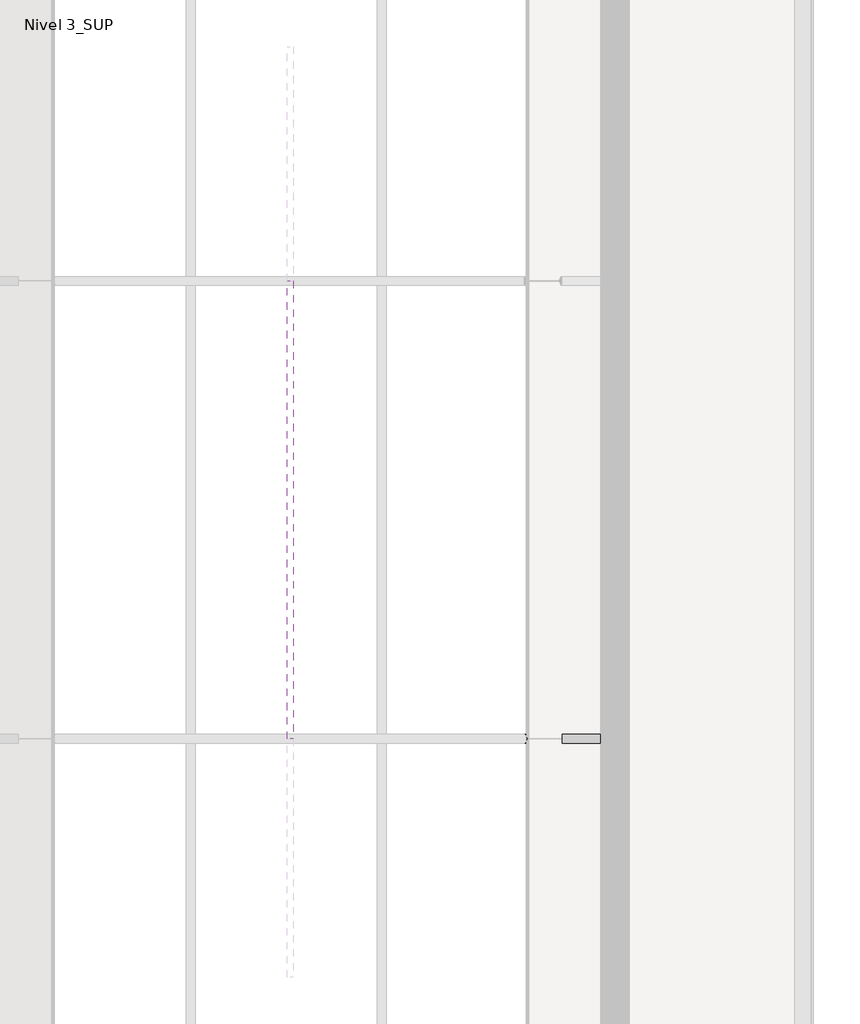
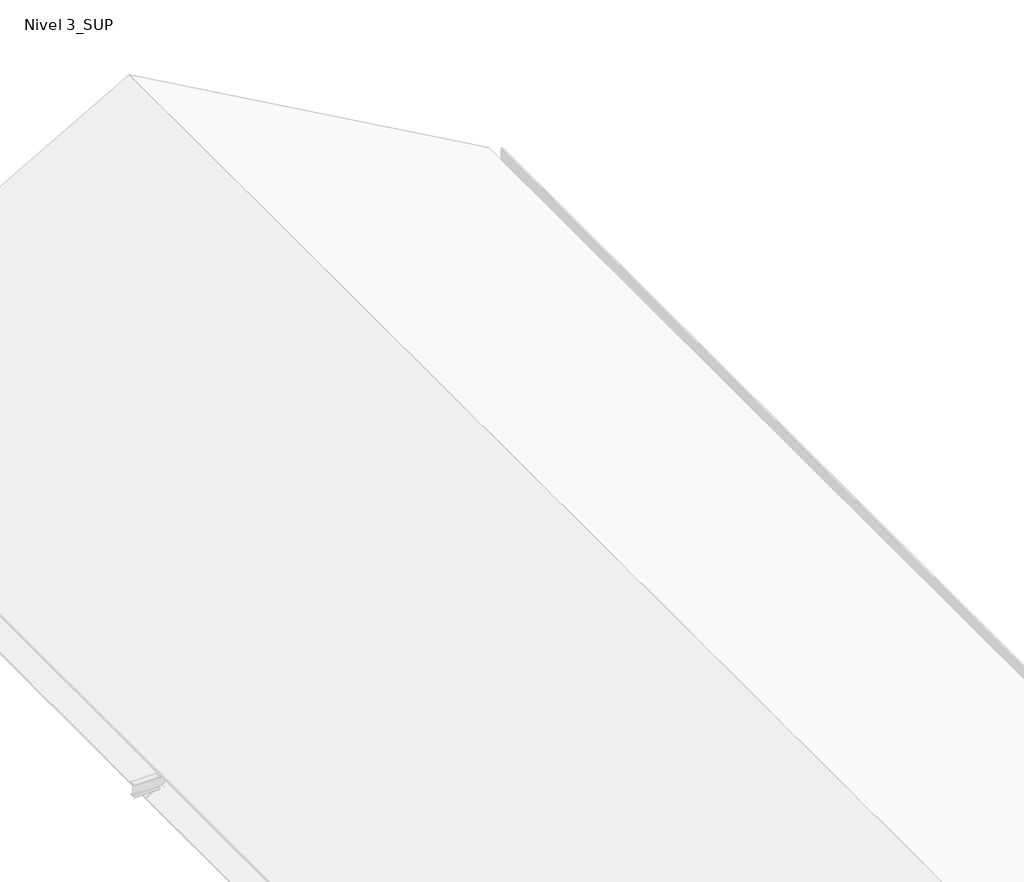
# One storey, part 7 of 10: 3 beams.
"""IFC4 building model written with IfcOpenShell, lengths in millimetres."""

from ifc_helpers import new_model, si_unit, point, frame, frame_2d, origin, place, context, project, spatial, polyline, circle_curve, ellipse_curve, trimmed, segment, composite_curve, outline, extrude, transform, mapped, element, save
from ifc_brep_helpers import plane_surface, cylinder_surface, revolved_surface, advanced_brep
from components import madera_50x50mm_248aafd5

model = new_model("IFC4")

# Units and contexts
model_context = context("Model", 3, world=origin())
ifc_project = project(units=[si_unit("LENGTHUNIT", "METRE", prefix="MILLI")], contexts=[model_context])

# Site, building, storey
site = spatial("IfcSite", under=ifc_project)
building = spatial("IfcBuilding", under=site)
storey = spatial("IfcBuildingStorey", under=building, Name="Nivel 3_SUP", Elevation=13230.0)

# Beams
placement = place(None, origin())
element("IfcBeam", 1, ObjectType="IPN - Secciones en I con alas cónicas : IPN 160", at=placement, inside=storey, context=model_context, shape_type="AdvancedBrep", body=[
    advanced_brep(
    [(10490.2150333, 5907.6072273, 15559.964301), (10491.9881247, 5907.6072273, 15563.1030499), (10493.8391044, 5910.8803655, 15566.3796778), (10495.5709331, 5936.0307088, 15569.4453831), (10498.6396626, 5941.4572273, 15574.8776873), (10490.2150333, 5941.4572273, 15559.964301), (10569.87885, 5907.6072273, 15514.9619045), (10569.87885, 5907.6072273, 15519.1022796), (10566.1155514, 5910.8803655, 15525.5504349), (10562.5945033, 5936.0307088, 15531.5835105), (10556.3553503, 5941.4572273, 15542.2738734), (10566.1155514, 5910.8803655, 15517.0878064), (10562.5945033, 5936.0307088, 15519.07686), (10556.3553503, 5941.4572273, 15522.6013815)],
    [
        (0, 1),
        (1, 2, circle_curve(frame((10491.9881247, 5911.4072273, 15563.1030499), z_axis=(-0.8706797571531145, 0.0, 0.49185034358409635), x_axis=(0.0, 1.0, 0.0)), 3.8)),
        (2, 3),
        (3, 4, circle_curve(frame((10498.6396626, 5935.1572273, 15574.8776873), z_axis=(0.8706797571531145, 0.0, -0.49185034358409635), x_axis=(0.0, 1.0, 0.0)), 6.3)),
        (4, 5),
        (5, 0),
        (0, 6),
        (6, 7),
        (7, 1),
        (2, 8),
        (8, 9),
        (9, 3),
        (9, 10, ellipse_curve(frame((10556.3553503, 5935.1572273, 15542.2738734), z_axis=(0.8636695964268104, 0.0, 0.5040583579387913), x_axis=(0.5040583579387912, 0.0, -0.8636695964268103)), 12.4985528, 6.3)),
        (10, 4),
        (8, 11),
        (11, 12),
        (12, 9),
        (12, 13, ellipse_curve(frame((10556.3553503, 5935.1572273, 15522.6013815), z_axis=(0.49185034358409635, 0.0, 0.8706797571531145), x_axis=(-0.8706797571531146, 0.0, 0.49185034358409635)), 7.2357258, 6.3)),
        (13, 10),
        (13, 5),
        (11, 6, ellipse_curve(frame((10569.87885, 5911.4072273, 15514.9619045), z_axis=(0.49185034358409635, 0.0, 0.8706797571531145), x_axis=(0.8706797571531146, 0.0, -0.49185034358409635)), 4.3644061, 3.8)),
        (7, 8, ellipse_curve(frame((10569.87885, 5911.4072273, 15519.1022796), z_axis=(-0.8636695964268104, 0.0, -0.5040583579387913), x_axis=(-0.5040583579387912, 0.0, 0.8636695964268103)), 7.5388096, 3.8)),
    ],
    [
        plane_surface(frame((10529.5630608, 5944.6072273, 15629.6186816), z_axis=(-0.8706797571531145, 0.0, 0.4918503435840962), x_axis=(0.4918503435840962, 0.0, 0.8706797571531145))),
        plane_surface(frame((10490.2150333, 5907.6072273, 15559.964301), z_axis=(0.0, -1.0, 0.0), x_axis=(0.8706797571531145, 0.0, -0.49185034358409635))),
        plane_surface(frame((10494.8876116, 5926.1072273, 15568.2357587), z_axis=(0.48709992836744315, -0.13864784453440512, 0.8622705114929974), x_axis=(0.8706797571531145, 0.0, -0.49185034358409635))),
        revolved_surface(polyline([(10565.754007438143, 5941.4572273, 15536.964535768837), (10498.6396626, 5941.4572273, 15574.8776873)]), (10498.6396626, 5935.1572273, 15574.8776873), (0.8706797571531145, 0.0, -0.49185034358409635)),
        plane_surface(frame((10566.1155514, 5910.8803655, 13390.0), z_axis=(0.9903417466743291, 0.13864784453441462, 0.0), x_axis=(0.0, 0.0, 1.0))),
        cylinder_surface(frame((10556.3553503, 5935.1572273, 14544.0), z_axis=(0.0, 0.0, 1.0), x_axis=(0.0, -1.0, 0.0)), 6.3),
        plane_surface(frame((10556.3553503, 5941.4572273, 13390.0), z_axis=(0.0, 1.0, 0.0), x_axis=(0.0, 0.0, 1.0))),
        plane_surface(frame((10490.2150333, 5981.6072273, 15559.964301), z_axis=(-0.49185034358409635, 0.0, -0.8706797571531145), x_axis=(0.8706797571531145, 0.0, -0.49185034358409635))),
        cylinder_surface(frame((10491.9881247, 5911.4072273, 15563.1030499), z_axis=(-0.8706797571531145, 0.0, 0.49185034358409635), x_axis=(0.0, 1.0, 0.0)), 3.8),
        revolved_surface(polyline([(10569.87885, 5907.6072273, 15512.591238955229), (10569.87885, 5907.6072273, 15525.61332024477)]), (10569.87885, 5911.4072273, 14544.0), (0.0, 0.0, -1.0)),
    ],
    [
        (0, [[1, 2, 3, 4, 5, 6]]),
        (1, [[-1, 7, 8, 9]]),
        (2, [[-3, 10, 11, 12]]),
        (3, [[-4, -12, 13, 14]]),
        (4, [[15, 16, 17, -11]]),
        (5, [[-17, 18, 19, -13]]),
        (6, [[-19, 20, -5, -14]]),
        (7, [[-6, -20, -18, -16, 21, -7]]),
        (8, [[-2, -9, 22, -10]]),
        (9, [[-15, -22, -8, -21]]),
    ],
),
    advanced_brep(
    [(14596.3407681, 5981.6072273, 13240.3980806), (14598.1138594, 5981.6072273, 13243.5368296), (14599.9648391, 5978.3340891, 13246.8134575), (14601.6966678, 5953.1837459, 13249.8791628), (14604.7653974, 5947.7572273, 13255.311467), (14600.1427742, 5947.7572273, 13247.1284404), (14596.6182526, 5953.1837459, 13240.8892874), (14596.3407681, 5956.6923656, 13240.3980806), (14345.2243974, 5981.6072273, 13386.3950593), (14359.537545, 5978.3340891, 13382.6317607), (14372.9293285, 5953.1837459, 13379.1107126), (14396.6590206, 5947.7572273, 13372.8715596), (14337.8950527, 5981.6072273, 13386.3950593), (14595.4712276, 5953.1837459, 13240.8892874), (14584.4265993, 5947.7572273, 13247.1284404), (14361.8345245, 5947.7572273, 13372.8715596), (14350.7898962, 5953.1837459, 13379.1107126), (14344.556892, 5978.3340891, 13382.6317607)],
    [
        (0, 1),
        (1, 2, circle_curve(frame((14598.1138594, 5977.8072273, 13243.5368296), z_axis=(0.8706797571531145, 0.0, -0.49185034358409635), x_axis=(0.0, 1.0, 0.0)), 3.8)),
        (2, 3),
        (3, 4, circle_curve(frame((14604.7653974, 5954.0572273, 13255.311467), z_axis=(-0.8706797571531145, 0.0, 0.49185034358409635), x_axis=(0.0, 1.0, 0.0)), 6.3)),
        (4, 5),
        (5, 6, ellipse_curve(frame((14600.1427742, 5954.0572273, 13247.1284404), z_axis=(0.8706797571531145, 0.0, -0.4918503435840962), x_axis=(0.4918503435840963, 0.0, 0.8706797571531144)), 7.2357258, 6.3)),
        (6, 7),
        (7, 0),
        (1, 8),
        (8, 9, ellipse_curve(frame((14345.2243974, 5977.8072273, 13386.3950593), z_axis=(-0.25428354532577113, 0.0, -0.9671297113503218), x_axis=(-0.9671297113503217, 0.0, 0.2542835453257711)), 14.9439477, 3.8)),
        (9, 2),
        (3, 10),
        (10, 11, ellipse_curve(frame((14396.6590206, 5954.0572273, 13372.8715596), z_axis=(0.25428354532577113, 0.0, 0.9671297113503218), x_axis=(0.9671297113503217, 0.0, -0.2542835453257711)), 24.7754922, 6.3)),
        (11, 4),
        (9, 10),
        (0, 12),
        (12, 8),
        (7, 13),
        (13, 14, ellipse_curve(frame((14584.4265993, 5954.0572273, 13247.1284404), z_axis=(-0.49185034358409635, 0.0, -0.8706797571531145), x_axis=(0.8706797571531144, 0.0, -0.4918503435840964)), 12.8087742, 6.3)),
        (14, 15),
        (15, 16, ellipse_curve(frame((14361.8345245, 5954.0572273, 13372.8715596), z_axis=(-0.49185034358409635, 0.0, -0.8706797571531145), x_axis=(0.8706797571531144, 0.0, -0.4918503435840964)), 12.8087742, 6.3)),
        (16, 17),
        (17, 12, ellipse_curve(frame((14337.8950527, 5977.8072273, 13386.3950593), z_axis=(0.49185034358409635, 0.0, 0.8706797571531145), x_axis=(-0.8706797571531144, 0.0, 0.4918503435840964)), 7.7259273, 3.8)),
        (9, 17),
        (16, 10),
        (15, 11),
        (14, 5),
        (13, 6),
    ],
    [
        plane_surface(frame((14635.6887956, 5944.6072273, 13310.0524612), z_axis=(0.8706797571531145, 0.0, -0.4918503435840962), x_axis=(0.4918503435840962, 0.0, 0.8706797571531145))),
        cylinder_surface(frame((10491.9881247, 5977.8072273, 15563.1030499), z_axis=(-0.8706797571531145, 0.0, 0.49185034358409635), x_axis=(0.0, 1.0, 0.0)), 3.8),
        revolved_surface(polyline([(14604.765397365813, 5960.3572273, 13255.311466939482), (14375.796563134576, 5960.3572273, 13384.656842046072)]), (10498.6396626, 5954.0572273, 15574.8776873), (0.8706797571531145, 0.0, -0.49185034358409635)),
        plane_surface(frame((10494.8876116, 5963.1072273, 15568.2357587), z_axis=(0.48709992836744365, 0.13864784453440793, 0.8622705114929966), x_axis=(0.8706797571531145, 0.0, -0.49185034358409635))),
        plane_surface(frame((10491.9881247, 5981.6072273, 15563.1030499), z_axis=(0.0, 1.0, 0.0), x_axis=(0.8706797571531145, 0.0, -0.49185034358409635))),
        plane_surface(frame((10490.2150333, 5981.6072273, 15559.964301), z_axis=(-0.49185034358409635, 0.0, -0.8706797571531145), x_axis=(0.8706797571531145, 0.0, -0.49185034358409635))),
        plane_surface(frame((6033.4837907, 5978.3340891, 13382.6317607), z_axis=(0.0, -0.13864784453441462, 0.9903417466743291), x_axis=(1.0, 0.0, 0.0))),
        cylinder_surface(frame((10483.0206567, 5954.0572273, 13372.8715596), z_axis=(1.0, 0.0, 0.0), x_axis=(0.0, 1.0, 0.0)), 6.3),
        plane_surface(frame((6033.4837907, 5947.7572273, 13372.8715596), z_axis=(0.0, -1.0, 0.0), x_axis=(1.0, 0.0, 0.0))),
        cylinder_surface(frame((10483.0206567, 5954.0572273, 13247.1284404), z_axis=(1.0, 0.0, 0.0), x_axis=(0.0, 1.0, 0.0)), 6.3),
        plane_surface(frame((6033.4837907, 5953.1837459, 13240.8892874), z_axis=(0.0, -0.13864784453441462, -0.9903417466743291), x_axis=(1.0, 0.0, 0.0))),
        revolved_surface(polyline([(14330.771661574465, 5981.6072273, 13386.3950593), (14359.677133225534, 5981.6072273, 13386.3950593)]), (10483.0206567, 5977.8072273, 13386.3950593), (-1.0, 0.0, 0.0)),
    ],
    [
        (0, [[1, 2, 3, 4, 5, 6, 7, 8]]),
        (1, [[-2, 9, 10, 11]]),
        (2, [[-4, 12, 13, 14]]),
        (3, [[-3, -11, 15, -12]]),
        (4, [[-1, 16, 17, -9]]),
        (5, [[-8, 18, 19, 20, 21, 22, 23, -16]]),
        (6, [[24, -22, 25, -15]]),
        (7, [[-25, -21, 26, -13]]),
        (8, [[-26, -20, 27, -5, -14]]),
        (9, [[-27, -19, 28, -6]]),
        (10, [[-28, -18, -7]]),
        (11, [[-24, -10, -17, -23]]),
    ],
),
    advanced_brep(
    [(10567.137997, 5981.6072273, 15696.1343132), (10568.9110883, 5981.6072273, 15699.2730621), (10571.1646792, 5981.6072273, 15698.0), (10569.87885, 5981.6072273, 15698.0), (10569.87885, 5981.6072273, 15694.5859948), (10564.485059, 5966.6877151, 15691.4380486), (10565.2870173, 5978.3340891, 15692.8576853), (10566.1155514, 5978.3340891, 15692.3896432), (10565.2870173, 5910.8803655, 15692.8576853), (10564.485059, 5922.5267396, 15691.4380486), (10566.1155514, 5910.8803655, 15692.3896432), (10568.9110883, 5907.6072273, 15699.2730621), (10567.137997, 5907.6072273, 15696.1343132), (10569.87885, 5907.6072273, 15694.5859948), (10569.87885, 5907.6072273, 15698.0), (10571.1646792, 5907.6072273, 15698.0), (10568.1919306, 5908.0021865, 15698.0), (10568.1919306, 5981.2122681, 15698.0), (10566.1155514, 5910.8803655, 15694.324367), (10566.1155514, 5978.3340891, 15694.324367)],
    [
        (0, 1),
        (1, 2),
        (2, 3),
        (3, 4),
        (4, 0),
        (5, 6),
        (6, 7),
        (7, 5),
        (8, 9),
        (9, 10),
        (10, 8),
        (11, 12),
        (12, 13),
        (13, 14),
        (14, 15),
        (15, 11),
        (1, 11),
        (15, 2),
        (14, 16, circle_curve(frame((10569.87885, 5911.4072273, 15698.0), z_axis=(0.0, 0.0, -1.0), x_axis=(0.0, -1.0, 0.0)), 3.8)),
        (16, 17),
        (17, 3, circle_curve(frame((10569.87885, 5977.8072273, 15698.0), z_axis=(0.0, 0.0, -1.0), x_axis=(0.0, -1.0, 0.0)), 3.8)),
        (13, 10, ellipse_curve(frame((10569.87885, 5911.4072273, 15694.5859948), z_axis=(0.5040583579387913, 0.0, -0.8636695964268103), x_axis=(-0.8636695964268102, 0.0, -0.5040583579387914)), 4.3998307, 3.8)),
        (10, 18),
        (18, 16, ellipse_curve(frame((10569.87885, 5911.4072273, 15700.9862063), z_axis=(-0.8706797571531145, 0.0, 0.4918503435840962), x_axis=(-0.49185034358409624, 0.0, -0.8706797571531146)), 7.7259273, 3.8)),
        (0, 6, circle_curve(frame((10567.137997, 5977.8072273, 15696.1343132), z_axis=(-0.8706797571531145, 0.0, 0.49185034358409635), x_axis=(0.0, 1.0, 0.0)), 3.8)),
        (5, 19),
        (19, 17, ellipse_curve(frame((10569.87885, 5977.8072273, 15700.9862063), z_axis=(0.8706797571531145, 0.0, -0.4918503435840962), x_axis=(-0.49185034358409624, 0.0, -0.8706797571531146)), 7.7259273, 3.8)),
        (18, 9),
        (8, 12, circle_curve(frame((10567.137997, 5911.4072273, 15696.1343132), z_axis=(-0.8706797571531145, 0.0, 0.49185034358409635), x_axis=(0.0, 1.0, 0.0)), 3.8)),
        (4, 7, ellipse_curve(frame((10569.87885, 5977.8072273, 15694.5859948), z_axis=(-0.5040583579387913, 0.0, 0.8636695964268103), x_axis=(-0.8636695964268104, 0.0, -0.5040583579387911)), 4.3998307, 3.8)),
        (7, 19),
    ],
    [
        plane_surface(frame((10568.9110883, 5981.6072273, 15699.2730621), z_axis=(0.0, 1.0, 0.0), x_axis=(0.8706797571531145, 0.0, -0.49185034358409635))),
        plane_surface(frame((10564.23851, 5963.1072273, 15691.0016044), z_axis=(-0.4870999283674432, 0.13864784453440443, -0.8622705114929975), x_axis=(0.8706797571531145, 0.0, -0.49185034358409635))),
        plane_surface(frame((10564.23851, 5926.1072273, 15691.0016044), z_axis=(-0.48709992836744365, -0.13864784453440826, -0.8622705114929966), x_axis=(0.8706797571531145, 0.0, -0.49185034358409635))),
        plane_surface(frame((10567.137997, 5907.6072273, 15696.1343132), z_axis=(0.0, -1.0, 0.0), x_axis=(0.8706797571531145, 0.0, -0.49185034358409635))),
        plane_surface(frame((10568.9110883, 5907.6072273, 15699.2730621), z_axis=(0.49185034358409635, 0.0, 0.8706797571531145), x_axis=(0.8706797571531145, 0.0, -0.49185034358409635))),
        plane_surface(frame((10493.4837907, 5944.6072273, 15698.0), z_axis=(0.0, 0.0, -1.0), x_axis=(0.0, -1.0, 0.0))),
        revolved_surface(polyline([(10569.87885, 5907.6072273, 15692.36822336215), (10569.87885, 5907.6072273, 15707.713014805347)]), (10569.87885, 5911.4072273, 14544.0), (0.0, 0.0, -1.0)),
        plane_surface(frame((10529.5630608, 5944.6072273, 15629.6186816), z_axis=(-0.8706797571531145, 0.0, 0.4918503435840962), x_axis=(0.4918503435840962, 0.0, 0.8706797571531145))),
        cylinder_surface(frame((10567.137997, 5977.8072273, 15696.1343132), z_axis=(-0.8706797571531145, 0.0, 0.49185034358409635), x_axis=(0.0, 1.0, 0.0)), 3.8),
        cylinder_surface(frame((10567.137997, 5911.4072273, 15696.1343132), z_axis=(-0.8706797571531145, 0.0, 0.49185034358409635), x_axis=(0.0, 1.0, 0.0)), 3.8),
        plane_surface(frame((10566.1155514, 5910.8803655, 13390.0), z_axis=(0.9903417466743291, 0.13864784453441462, 0.0), x_axis=(0.0, 0.0, 1.0))),
        plane_surface(frame((10562.5945033, 5953.1837459, 13390.0), z_axis=(0.9903417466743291, -0.13864784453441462, 0.0), x_axis=(0.0, 0.0, 1.0))),
        revolved_surface(polyline([(10569.87885, 5974.0072273, 15692.36822336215), (10569.87885, 5974.0072273, 15707.713014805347)]), (10569.87885, 5977.8072273, 14544.0), (0.0, 0.0, -1.0)),
    ],
    [
        (0, [[1, 2, 3, 4, 5]]),
        (1, [[6, 7, 8]]),
        (2, [[9, 10, 11]]),
        (3, [[12, 13, 14, 15, 16]]),
        (4, [[17, -16, 18, -2]]),
        (5, [[19, 20, 21, -3, -18, -15]]),
        (6, [[-19, -14, 22, 23, 24]]),
        (7, [[-1, 25, -6, 26, 27, -20, -24, 28, -9, 29, -12, -17]]),
        (8, [[-25, -5, 30, -7]]),
        (9, [[-29, -11, -22, -13]]),
        (10, [[-23, -10, -28]]),
        (11, [[31, -26, -8]]),
        (12, [[-21, -27, -31, -30, -4]]),
    ],
),
    advanced_brep(
    [(14649.4863983, 5981.6072273, 13390.0), (14641.8350899, 5978.3340891, 13390.0), (10573.4837907, 5978.3340891, 15688.2272964), (10573.4837907, 5981.6072273, 15692.5495499), (14634.6763106, 5953.1837459, 13390.0), (14621.9912468, 5947.7572273, 13390.0), (10573.4837907, 5947.7572273, 15677.0174331), (10573.4837907, 5953.1837459, 15684.1832745), (14366.3380368, 5947.7572273, 13390.0), (10573.4837907, 5947.7572273, 15532.5979515), (14346.4941937, 5978.3340891, 13390.0), (14338.8428853, 5981.6072273, 13390.0), (10573.4837907, 5981.6072273, 15517.0658347), (10573.4837907, 5978.3340891, 15521.3880882), (14338.8428853, 5907.6072273, 13390.0), (14346.4941937, 5910.8803655, 13390.0), (10573.4837907, 5910.8803655, 15521.3880882), (10573.4837907, 5907.6072273, 15517.0658347), (14366.3380368, 5941.4572273, 13390.0), (14621.9912468, 5941.4572273, 13390.0), (10573.4837907, 5941.4572273, 15677.0174331), (10573.4837907, 5941.4572273, 15532.5979515), (14634.6763106, 5936.0307088, 13390.0), (10573.4837907, 5936.0307088, 15684.1832745), (14641.8350899, 5910.8803655, 13390.0), (14649.4863983, 5907.6072273, 13390.0), (10573.4837907, 5907.6072273, 15692.5495499), (10573.4837907, 5910.8803655, 15688.2272964), (14656.815743, 5981.6072273, 13390.0), (14656.815743, 5907.6072273, 13390.0), (14353.6529729, 5936.0307088, 13390.0), (14331.5135406, 5907.6072273, 13390.0), (14331.5135406, 5981.6072273, 13390.0), (14353.6529729, 5953.1837459, 13390.0), (10573.4837907, 5981.6072273, 15696.6899249), (10573.4837907, 5953.1837459, 15525.4321101), (10573.4837907, 5981.6072273, 15512.9254597), (10573.4837907, 5907.6072273, 15512.9254597), (10573.4837907, 5936.0307088, 15525.4321101), (10573.4837907, 5907.6072273, 15696.6899249)],
    [
        (0, 1, ellipse_curve(frame((14649.4863983, 5977.8072273, 13390.0), z_axis=(0.0, 0.0, 1.0), x_axis=(-1.0, 0.0, 0.0)), 7.7259273, 3.8)),
        (1, 2),
        (2, 3, ellipse_curve(frame((10573.4837907, 5977.8072273, 15692.5495499), z_axis=(1.0, 0.0, 0.0), x_axis=(0.0, 0.0, 1.0)), 4.3644061, 3.8)),
        (3, 0),
        (4, 5, ellipse_curve(frame((14621.9912468, 5954.0572273, 13390.0), z_axis=(0.0, 0.0, -1.0), x_axis=(1.0, 0.0, 0.0)), 12.8087742, 6.3)),
        (5, 6),
        (6, 7, ellipse_curve(frame((10573.4837907, 5954.0572273, 15677.0174331), z_axis=(-1.0, 0.0, 0.0), x_axis=(0.0, 0.0, -1.0)), 7.2357258, 6.3)),
        (7, 4),
        (5, 8),
        (8, 9),
        (9, 6),
        (10, 11, ellipse_curve(frame((14338.8428853, 5977.8072273, 13390.0), z_axis=(0.0, 0.0, 1.0), x_axis=(-1.0, 0.0, 0.0)), 7.7259273, 3.8)),
        (11, 12),
        (12, 13, ellipse_curve(frame((10573.4837907, 5977.8072273, 15517.0658347), z_axis=(1.0, 0.0, 0.0), x_axis=(0.0, 0.0, 1.0)), 4.3644061, 3.8)),
        (13, 10),
        (14, 15, ellipse_curve(frame((14338.8428853, 5911.4072273, 13390.0), z_axis=(0.0, 0.0, 1.0), x_axis=(-1.0, 0.0, 0.0)), 7.7259273, 3.8)),
        (15, 16),
        (16, 17, ellipse_curve(frame((10573.4837907, 5911.4072273, 15517.0658347), z_axis=(1.0, 0.0, 0.0), x_axis=(0.0, 0.0, 1.0)), 4.3644061, 3.8)),
        (17, 14),
        (18, 19),
        (19, 20),
        (20, 21),
        (21, 18),
        (19, 22, ellipse_curve(frame((14621.9912468, 5935.1572273, 13390.0), z_axis=(0.0, 0.0, -1.0), x_axis=(1.0, 0.0, 0.0)), 12.8087742, 6.3)),
        (22, 23),
        (23, 20, ellipse_curve(frame((10573.4837907, 5935.1572273, 15677.0174331), z_axis=(-1.0, 0.0, 0.0), x_axis=(0.0, 0.0, -1.0)), 7.2357258, 6.3)),
        (24, 25, ellipse_curve(frame((14649.4863983, 5911.4072273, 13390.0), z_axis=(0.0, 0.0, 1.0), x_axis=(-1.0, 0.0, 0.0)), 7.7259273, 3.8)),
        (25, 26),
        (26, 27, ellipse_curve(frame((10573.4837907, 5911.4072273, 15692.5495499), z_axis=(1.0, 0.0, 0.0), x_axis=(0.0, 0.0, 1.0)), 4.3644061, 3.8)),
        (27, 24),
        (0, 28),
        (28, 29),
        (29, 25),
        (24, 22),
        (18, 30, ellipse_curve(frame((14366.3380368, 5935.1572273, 13390.0), z_axis=(0.0, 0.0, 1.0), x_axis=(1.0, 0.0, 0.0)), 12.8087742, 6.3)),
        (30, 15),
        (14, 31),
        (31, 32),
        (32, 11),
        (10, 33),
        (33, 8, ellipse_curve(frame((14366.3380368, 5954.0572273, 13390.0), z_axis=(0.0, 0.0, 1.0), x_axis=(1.0, 0.0, 0.0)), 12.8087742, 6.3)),
        (4, 1),
        (34, 3),
        (2, 7),
        (9, 35, ellipse_curve(frame((10573.4837907, 5954.0572273, 15532.5979515), z_axis=(1.0, 0.0, 0.0), x_axis=(0.0, 0.0, -1.0)), 7.2357258, 6.3)),
        (35, 13),
        (12, 36),
        (36, 37),
        (37, 17),
        (16, 38),
        (38, 21, ellipse_curve(frame((10573.4837907, 5935.1572273, 15532.5979515), z_axis=(1.0, 0.0, 0.0), x_axis=(0.0, 0.0, -1.0)), 7.2357258, 6.3)),
        (23, 27),
        (26, 39),
        (39, 34),
        (34, 28),
        (33, 35),
        (32, 36),
        (31, 37),
        (30, 38),
        (29, 39),
    ],
    [
        cylinder_surface(frame((10567.137997, 5977.8072273, 15696.1343132), z_axis=(-0.8706797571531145, 0.0, 0.49185034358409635), x_axis=(0.0, 1.0, 0.0)), 3.8),
        revolved_surface(polyline([(14631.701363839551, 5960.3572273, 13384.514717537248), (10570.385133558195, 5960.3572273, 15678.76787647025)]), (10560.486459, 5954.0572273, 15684.3596758), (0.8706797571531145, 0.0, -0.49185034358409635)),
        plane_surface(frame((10560.486459, 5947.7572273, 15684.3596758), z_axis=(0.0, 1.0, 0.0), x_axis=(0.8706797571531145, 0.0, -0.49185034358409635))),
        cylinder_surface(frame((10491.9881247, 5977.8072273, 15563.1030499), z_axis=(-0.8706797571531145, 0.0, 0.49185034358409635), x_axis=(0.0, 1.0, 0.0)), 3.8),
        cylinder_surface(frame((10491.9881247, 5911.4072273, 15563.1030499), z_axis=(-0.8706797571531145, 0.0, 0.49185034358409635), x_axis=(0.0, 1.0, 0.0)), 3.8),
        plane_surface(frame((10498.6396626, 5941.4572273, 15574.8776873), z_axis=(0.0, -1.0, 0.0), x_axis=(0.8706797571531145, 0.0, -0.49185034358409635))),
        revolved_surface(polyline([(14631.701363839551, 5941.4572273, 13384.514717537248), (10570.385133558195, 5941.4572273, 15678.76787647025)]), (10560.486459, 5935.1572273, 15684.3596758), (0.8706797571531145, 0.0, -0.49185034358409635)),
        cylinder_surface(frame((10567.137997, 5911.4072273, 15696.1343132), z_axis=(-0.8706797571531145, 0.0, 0.49185034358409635), x_axis=(0.0, 1.0, 0.0)), 3.8),
        plane_surface(frame((6033.4837907, 5907.6072273, 13390.0), z_axis=(0.0, 0.0, -1.0), x_axis=(1.0, 0.0, 0.0))),
        plane_surface(frame((10573.4837907, 5981.6072273, 13390.0), z_axis=(-1.0, 0.0, 0.0), x_axis=(0.0, 0.0, 1.0))),
        plane_surface(frame((10568.9110883, 5981.6072273, 15699.2730621), z_axis=(0.0, 1.0, 0.0), x_axis=(0.8706797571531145, 0.0, -0.49185034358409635))),
        plane_surface(frame((10564.23851, 5963.1072273, 15691.0016044), z_axis=(-0.4870999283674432, 0.13864784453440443, -0.8622705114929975), x_axis=(0.8706797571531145, 0.0, -0.49185034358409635))),
        revolved_surface(polyline([(14376.048153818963, 5960.3572273, 13384.514717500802), (10570.385133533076, 5960.3572273, 15534.348394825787)]), (10498.6396626, 5954.0572273, 15574.8776873), (0.8706797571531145, 0.0, -0.49185034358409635)),
        plane_surface(frame((10494.8876116, 5963.1072273, 15568.2357587), z_axis=(0.48709992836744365, 0.13864784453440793, 0.8622705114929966), x_axis=(0.8706797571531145, 0.0, -0.49185034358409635))),
        plane_surface(frame((10491.9881247, 5981.6072273, 15563.1030499), z_axis=(0.0, 1.0, 0.0), x_axis=(0.8706797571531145, 0.0, -0.49185034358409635))),
        plane_surface(frame((10490.2150333, 5981.6072273, 15559.964301), z_axis=(-0.49185034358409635, 0.0, -0.8706797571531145), x_axis=(0.8706797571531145, 0.0, -0.49185034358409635))),
        plane_surface(frame((10490.2150333, 5907.6072273, 15559.964301), z_axis=(0.0, -1.0, 0.0), x_axis=(0.8706797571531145, 0.0, -0.49185034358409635))),
        plane_surface(frame((10494.8876116, 5926.1072273, 15568.2357587), z_axis=(0.48709992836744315, -0.13864784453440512, 0.8622705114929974), x_axis=(0.8706797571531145, 0.0, -0.49185034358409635))),
        revolved_surface(polyline([(14376.048153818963, 5941.4572273, 13384.514717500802), (10570.385133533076, 5941.4572273, 15534.348394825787)]), (10498.6396626, 5935.1572273, 15574.8776873), (0.8706797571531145, 0.0, -0.49185034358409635)),
        plane_surface(frame((10564.23851, 5926.1072273, 15691.0016044), z_axis=(-0.48709992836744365, -0.13864784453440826, -0.8622705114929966), x_axis=(0.8706797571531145, 0.0, -0.49185034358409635))),
        plane_surface(frame((10567.137997, 5907.6072273, 15696.1343132), z_axis=(0.0, -1.0, 0.0), x_axis=(0.8706797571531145, 0.0, -0.49185034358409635))),
        plane_surface(frame((10568.9110883, 5907.6072273, 15699.2730621), z_axis=(0.49185034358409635, 0.0, 0.8706797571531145), x_axis=(0.8706797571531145, 0.0, -0.49185034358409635))),
    ],
    [
        (0, [[1, 2, 3, 4]]),
        (1, [[5, 6, 7, 8]]),
        (2, [[9, 10, 11, -6]]),
        (3, [[12, 13, 14, 15]]),
        (4, [[16, 17, 18, 19]]),
        (5, [[20, 21, 22, 23]]),
        (6, [[24, 25, 26, -21]]),
        (7, [[27, 28, 29, 30]]),
        (8, [[31, 32, 33, -27, 34, -24, -20, 35, 36, -16, 37, 38, 39, -12, 40, 41, -9, -5, 42, -1]]),
        (9, [[43, -3, 44, -7, -11, 45, 46, -14, 47, 48, 49, -18, 50, 51, -22, -26, 52, -29, 53, 54]]),
        (10, [[-31, -4, -43, 55]]),
        (11, [[-42, -8, -44, -2]]),
        (12, [[-41, 56, -45, -10]]),
        (13, [[-40, -15, -46, -56]]),
        (14, [[-39, 57, -47, -13]]),
        (15, [[-38, 58, -48, -57]]),
        (16, [[-37, -19, -49, -58]]),
        (17, [[-36, 59, -50, -17]]),
        (18, [[-35, -23, -51, -59]]),
        (19, [[-34, -30, -52, -25]]),
        (20, [[-33, 60, -53, -28]]),
        (21, [[-32, -55, -54, -60]]),
    ],
),
    advanced_brep(
    [(10495.5709331, 5953.1837459, 15569.4453831), (10498.6396626, 5947.7572273, 15574.8776873), (10556.3553503, 5947.7572273, 15542.2738734), (10562.5945033, 5953.1837459, 15531.5835105), (10493.8391044, 5978.3340891, 15566.3796778), (10566.1155514, 5978.3340891, 15525.5504349), (10490.2150333, 5981.6072273, 15559.964301), (10491.9881247, 5981.6072273, 15563.1030499), (10569.87885, 5981.6072273, 15519.1022796), (10569.87885, 5981.6072273, 15514.9619045), (10490.2150333, 5947.7572273, 15559.964301), (10566.1155514, 5978.3340891, 15517.0878064), (10562.5945033, 5953.1837459, 15519.07686), (10556.3553503, 5947.7572273, 15522.6013815)],
    [
        (0, 1, circle_curve(frame((10498.6396626, 5954.0572273, 15574.8776873), z_axis=(-0.8706797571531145, 0.0, 0.49185034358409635), x_axis=(0.0, 1.0, 0.0)), 6.3)),
        (1, 2),
        (2, 3, ellipse_curve(frame((10556.3553503, 5954.0572273, 15542.2738734), z_axis=(0.8636695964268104, 0.0, 0.5040583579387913), x_axis=(0.5040583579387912, 0.0, -0.8636695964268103)), 12.4985528, 6.3)),
        (3, 0),
        (4, 0),
        (3, 5),
        (5, 4),
        (6, 7),
        (7, 8),
        (8, 9),
        (9, 6),
        (10, 6),
        (9, 11, ellipse_curve(frame((10569.87885, 5977.8072273, 15514.9619045), z_axis=(0.49185034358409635, 0.0, 0.8706797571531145), x_axis=(0.8706797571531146, 0.0, -0.49185034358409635)), 4.3644061, 3.8)),
        (11, 12),
        (12, 13, ellipse_curve(frame((10556.3553503, 5954.0572273, 15522.6013815), z_axis=(-0.49185034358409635, 0.0, -0.8706797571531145), x_axis=(-0.8706797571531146, 0.0, 0.49185034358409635)), 7.2357258, 6.3)),
        (13, 10),
        (13, 2),
        (1, 10),
        (12, 3),
        (11, 5),
        (8, 5, ellipse_curve(frame((10569.87885, 5977.8072273, 15519.1022796), z_axis=(0.8636695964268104, 0.0, 0.5040583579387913), x_axis=(0.5040583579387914, 0.0, -0.8636695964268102)), 7.5388096, 3.8)),
        (4, 7, circle_curve(frame((10491.9881247, 5977.8072273, 15563.1030499), z_axis=(-0.8706797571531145, 0.0, 0.49185034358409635), x_axis=(0.0, 1.0, 0.0)), 3.8)),
    ],
    [
        revolved_surface(polyline([(10565.754007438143, 5960.3572273, 15536.964535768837), (10498.6396626, 5960.3572273, 15574.8776873)]), (10498.6396626, 5954.0572273, 15574.8776873), (0.8706797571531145, 0.0, -0.49185034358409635)),
        plane_surface(frame((10494.8876116, 5963.1072273, 15568.2357587), z_axis=(0.48709992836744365, 0.13864784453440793, 0.8622705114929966), x_axis=(0.8706797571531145, 0.0, -0.49185034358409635))),
        plane_surface(frame((10491.9881247, 5981.6072273, 15563.1030499), z_axis=(0.0, 1.0, 0.0), x_axis=(0.8706797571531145, 0.0, -0.49185034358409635))),
        plane_surface(frame((10490.2150333, 5981.6072273, 15559.964301), z_axis=(-0.49185034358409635, 0.0, -0.8706797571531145), x_axis=(0.8706797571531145, 0.0, -0.49185034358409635))),
        plane_surface(frame((10430.6122311, 5947.7572273, 13390.0), z_axis=(0.0, -1.0, 0.0), x_axis=(0.0, 0.0, 1.0))),
        cylinder_surface(frame((10556.3553503, 5954.0572273, 14544.0), z_axis=(0.0, 0.0, 1.0), x_axis=(0.0, -1.0, 0.0)), 6.3),
        plane_surface(frame((10562.5945033, 5953.1837459, 13390.0), z_axis=(0.9903417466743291, -0.13864784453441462, 0.0), x_axis=(0.0, 0.0, 1.0))),
        revolved_surface(polyline([(10569.87885, 5974.0072273, 15512.591238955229), (10569.87885, 5974.0072273, 15525.61332024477)]), (10569.87885, 5977.8072273, 14544.0), (0.0, 0.0, -1.0)),
        plane_surface(frame((10529.5630608, 5944.6072273, 15629.6186816), z_axis=(-0.8706797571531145, 0.0, 0.4918503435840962), x_axis=(0.4918503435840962, 0.0, 0.8706797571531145))),
        cylinder_surface(frame((10491.9881247, 5977.8072273, 15563.1030499), z_axis=(-0.8706797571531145, 0.0, 0.49185034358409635), x_axis=(0.0, 1.0, 0.0)), 3.8),
    ],
    [
        (0, [[1, 2, 3, 4]]),
        (1, [[5, -4, 6, 7]]),
        (2, [[8, 9, 10, 11]]),
        (3, [[12, -11, 13, 14, 15, 16]]),
        (4, [[17, -2, 18, -16]]),
        (5, [[-17, -15, 19, -3]]),
        (6, [[-19, -14, 20, -6]]),
        (7, [[-20, -13, -10, 21]]),
        (8, [[-1, -5, 22, -8, -12, -18]]),
        (9, [[-22, -7, -21, -9]]),
    ],
),
    advanced_brep(
    [(14604.7653974, 5941.4572273, 13255.311467), (14601.6966678, 5936.0307088, 13249.8791628), (14599.9648391, 5910.8803655, 13246.8134575), (14598.1138594, 5907.6072273, 13243.5368296), (14596.3407681, 5907.6072273, 13240.3980806), (14596.3407681, 5932.5220891, 13240.3980806), (14596.6182526, 5936.0307088, 13240.8892874), (14600.1427742, 5941.4572273, 13247.1284404), (14359.537545, 5910.8803655, 13382.6317607), (14345.2243974, 5907.6072273, 13386.3950593), (14337.8950527, 5907.6072273, 13386.3950593), (14344.556892, 5910.8803655, 13382.6317607), (14350.7898962, 5936.0307088, 13379.1107126), (14361.8345245, 5941.4572273, 13372.8715596), (14584.4265993, 5941.4572273, 13247.1284404), (14595.4712276, 5936.0307088, 13240.8892874), (14372.9293285, 5936.0307088, 13379.1107126), (14396.6590206, 5941.4572273, 13372.8715596)],
    [
        (0, 1, circle_curve(frame((14604.7653974, 5935.1572273, 13255.311467), z_axis=(-0.8706797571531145, 0.0, 0.49185034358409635), x_axis=(0.0, 1.0, 0.0)), 6.3)),
        (1, 2),
        (2, 3, circle_curve(frame((14598.1138594, 5911.4072273, 13243.5368296), z_axis=(0.8706797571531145, 0.0, -0.49185034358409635), x_axis=(0.0, 1.0, 0.0)), 3.8)),
        (3, 4),
        (4, 5),
        (5, 6),
        (6, 7, ellipse_curve(frame((14600.1427742, 5935.1572273, 13247.1284404), z_axis=(0.8706797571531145, 0.0, -0.4918503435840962), x_axis=(0.4918503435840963, 0.0, 0.8706797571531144)), 7.2357258, 6.3)),
        (7, 0),
        (2, 8),
        (8, 9, ellipse_curve(frame((14345.2243974, 5911.4072273, 13386.3950593), z_axis=(-0.25428354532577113, 0.0, -0.9671297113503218), x_axis=(-0.9671297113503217, 0.0, 0.2542835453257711)), 14.9439477, 3.8)),
        (9, 3),
        (4, 10),
        (10, 11, ellipse_curve(frame((14337.8950527, 5911.4072273, 13386.3950593), z_axis=(0.49185034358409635, 0.0, 0.8706797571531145), x_axis=(-0.8706797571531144, 0.0, 0.4918503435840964)), 7.7259273, 3.8)),
        (11, 12),
        (12, 13, ellipse_curve(frame((14361.8345245, 5935.1572273, 13372.8715596), z_axis=(-0.49185034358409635, 0.0, -0.8706797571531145), x_axis=(0.8706797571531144, 0.0, -0.4918503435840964)), 12.8087742, 6.3)),
        (13, 14),
        (14, 15, ellipse_curve(frame((14584.4265993, 5935.1572273, 13247.1284404), z_axis=(-0.49185034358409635, 0.0, -0.8706797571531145), x_axis=(0.8706797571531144, 0.0, -0.4918503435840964)), 12.8087742, 6.3)),
        (15, 5),
        (9, 10),
        (1, 16),
        (16, 8),
        (0, 17),
        (17, 16, ellipse_curve(frame((14396.6590206, 5935.1572273, 13372.8715596), z_axis=(0.25428354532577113, 0.0, 0.9671297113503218), x_axis=(0.9671297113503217, 0.0, -0.2542835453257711)), 24.7754922, 6.3)),
        (15, 6),
        (14, 7),
        (13, 17),
        (12, 16),
        (11, 8),
    ],
    [
        plane_surface(frame((14635.6887956, 5944.6072273, 13310.0524612), z_axis=(0.8706797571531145, 0.0, -0.4918503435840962), x_axis=(0.4918503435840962, 0.0, 0.8706797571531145))),
        cylinder_surface(frame((10491.9881247, 5911.4072273, 15563.1030499), z_axis=(-0.8706797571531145, 0.0, 0.49185034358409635), x_axis=(0.0, 1.0, 0.0)), 3.8),
        plane_surface(frame((10490.2150333, 5981.6072273, 15559.964301), z_axis=(-0.49185034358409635, 0.0, -0.8706797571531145), x_axis=(0.8706797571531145, 0.0, -0.49185034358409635))),
        plane_surface(frame((10490.2150333, 5907.6072273, 15559.964301), z_axis=(0.0, -1.0, 0.0), x_axis=(0.8706797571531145, 0.0, -0.49185034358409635))),
        plane_surface(frame((10494.8876116, 5926.1072273, 15568.2357587), z_axis=(0.48709992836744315, -0.13864784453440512, 0.8622705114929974), x_axis=(0.8706797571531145, 0.0, -0.49185034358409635))),
        revolved_surface(polyline([(14604.765397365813, 5941.4572273, 13255.311466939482), (14375.796563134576, 5941.4572273, 13384.656842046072)]), (10498.6396626, 5935.1572273, 15574.8776873), (0.8706797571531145, 0.0, -0.49185034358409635)),
        plane_surface(frame((6033.4837907, 5910.8803655, 13237.3682393), z_axis=(0.0, 0.13864784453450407, -0.9903417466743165), x_axis=(1.0, 0.0, 0.0))),
        cylinder_surface(frame((10483.0206567, 5935.1572273, 13247.1284404), z_axis=(1.0, 0.0, 0.0), x_axis=(0.0, 1.0, 0.0)), 6.3),
        plane_surface(frame((6033.4837907, 5941.4572273, 13247.1284404), z_axis=(0.0, 1.0, 0.0), x_axis=(1.0, 0.0, 0.0))),
        cylinder_surface(frame((10483.0206567, 5935.1572273, 13372.8715596), z_axis=(1.0, 0.0, 0.0), x_axis=(0.0, 1.0, 0.0)), 6.3),
        plane_surface(frame((6033.4837907, 5936.0307088, 13379.1107126), z_axis=(0.0, 0.13864784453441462, 0.9903417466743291), x_axis=(1.0, 0.0, 0.0))),
        revolved_surface(polyline([(14330.771661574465, 5915.2072273, 13386.3950593), (14359.677133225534, 5915.2072273, 13386.3950593)]), (10483.0206567, 5911.4072273, 13386.3950593), (-1.0, 0.0, 0.0)),
    ],
    [
        (0, [[1, 2, 3, 4, 5, 6, 7, 8]]),
        (1, [[-3, 9, 10, 11]]),
        (2, [[-5, 12, 13, 14, 15, 16, 17, 18]]),
        (3, [[-4, -11, 19, -12]]),
        (4, [[-2, 20, 21, -9]]),
        (5, [[-1, 22, 23, -20]]),
        (6, [[24, -6, -18]]),
        (7, [[-24, -17, 25, -7]]),
        (8, [[-25, -16, 26, -22, -8]]),
        (9, [[-26, -15, 27, -23]]),
        (10, [[-27, -14, 28, -21]]),
        (11, [[-28, -13, -19, -10]]),
    ],
),
    advanced_brep(
    [(14666.6121937, 5947.7572273, 13364.7934555), (14669.6809233, 5953.1837459, 13370.2257597), (14671.412752, 5978.3340891, 13373.2914649), (14673.2637317, 5981.6072273, 13376.5680929), (14675.036823, 5981.6072273, 13379.7068418), (14675.036823, 5957.4418116, 13379.7068418), (14674.7000674, 5953.1837459, 13379.1107126), (14671.1755458, 5947.7572273, 13372.8715596), (14654.8784413, 5978.3340891, 13382.6317607), (14655.8679103, 5981.6072273, 13386.3950593), (14663.197255, 5981.6072273, 13386.3950593), (14653.9526662, 5953.1837459, 13379.1107126), (14652.3122307, 5947.7572273, 13372.8715596), (14669.8590943, 5978.3340891, 13382.6317607)],
    [
        (0, 1, circle_curve(frame((14666.6121937, 5954.0572273, 13364.7934555), z_axis=(-0.8706797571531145, 0.0, 0.49185034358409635), x_axis=(0.0, 1.0, 0.0)), 6.3)),
        (1, 2),
        (2, 3, circle_curve(frame((14673.2637317, 5977.8072273, 13376.5680929), z_axis=(0.8706797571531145, 0.0, -0.49185034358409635), x_axis=(0.0, 1.0, 0.0)), 3.8)),
        (3, 4),
        (4, 5),
        (5, 6),
        (6, 7, ellipse_curve(frame((14671.1755458, 5954.0572273, 13372.8715596), z_axis=(0.8706797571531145, 0.0, -0.4918503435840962), x_axis=(0.4918503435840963, 0.0, 0.8706797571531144)), 7.2357258, 6.3)),
        (7, 0),
        (2, 8),
        (8, 9, ellipse_curve(frame((14655.8679103, 5977.8072273, 13386.3950593), z_axis=(0.9671297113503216, 0.0, -0.2542835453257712), x_axis=(0.25428354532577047, 0.0, 0.9671297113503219)), 3.9291524, 3.8)),
        (9, 3),
        (9, 10),
        (10, 4),
        (1, 11),
        (11, 8),
        (0, 12),
        (12, 11, ellipse_curve(frame((14652.3122307, 5954.0572273, 13372.8715596), z_axis=(-0.9671297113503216, 0.0, 0.2542835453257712), x_axis=(-0.25428354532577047, 0.0, -0.9671297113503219)), 6.514121, 6.3)),
        (10, 13, ellipse_curve(frame((14663.197255, 5977.8072273, 13386.3950593), z_axis=(-0.49185034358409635, 0.0, -0.8706797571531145), x_axis=(-0.8706797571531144, 0.0, 0.4918503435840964)), 7.7259273, 3.8)),
        (13, 5),
        (8, 13),
        (11, 6),
        (12, 7),
    ],
    [
        plane_surface(frame((14635.6887956, 5944.6072273, 13310.0524612), z_axis=(0.8706797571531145, 0.0, -0.4918503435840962), x_axis=(0.4918503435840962, 0.0, 0.8706797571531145))),
        cylinder_surface(frame((10567.137997, 5977.8072273, 15696.1343132), z_axis=(-0.8706797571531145, 0.0, 0.49185034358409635), x_axis=(0.0, 1.0, 0.0)), 3.8),
        plane_surface(frame((10568.9110883, 5981.6072273, 15699.2730621), z_axis=(0.0, 1.0, 0.0), x_axis=(0.8706797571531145, 0.0, -0.49185034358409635))),
        plane_surface(frame((10564.23851, 5963.1072273, 15691.0016044), z_axis=(-0.4870999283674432, 0.13864784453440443, -0.8622705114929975), x_axis=(0.8706797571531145, 0.0, -0.49185034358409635))),
        revolved_surface(polyline([(14666.612193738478, 5960.3572273, 13364.793455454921), (14650.870007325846, 5960.3572273, 13373.686277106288)]), (10560.486459, 5954.0572273, 15684.3596758), (0.8706797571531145, 0.0, -0.49185034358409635)),
        plane_surface(frame((10568.9110883, 5907.6072273, 15699.2730621), z_axis=(0.49185034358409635, 0.0, 0.8706797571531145), x_axis=(0.8706797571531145, 0.0, -0.49185034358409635))),
        revolved_surface(polyline([(14654.868791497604, 5981.6072273, 13386.3950593), (14669.924063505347, 5981.6072273, 13386.3950593)]), (10483.0206567, 5977.8072273, 13386.3950593), (-1.0, 0.0, 0.0)),
        plane_surface(frame((6033.4837907, 5978.3340891, 13382.6317607), z_axis=(0.0, -0.13864784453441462, 0.9903417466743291), x_axis=(1.0, 0.0, 0.0))),
        cylinder_surface(frame((10483.0206567, 5954.0572273, 13372.8715596), z_axis=(1.0, 0.0, 0.0), x_axis=(0.0, 1.0, 0.0)), 6.3),
        plane_surface(frame((6033.4837907, 5947.7572273, 13372.8715596), z_axis=(0.0, -1.0, 0.0), x_axis=(1.0, 0.0, 0.0))),
    ],
    [
        (0, [[1, 2, 3, 4, 5, 6, 7, 8]]),
        (1, [[-3, 9, 10, 11]]),
        (2, [[-4, -11, 12, 13]]),
        (3, [[-2, 14, 15, -9]]),
        (4, [[-1, 16, 17, -14]]),
        (5, [[-5, -13, 18, 19]]),
        (6, [[20, -18, -12, -10]]),
        (7, [[-20, -15, 21, -6, -19]]),
        (8, [[-21, -17, 22, -7]]),
        (9, [[-22, -16, -8]]),
    ],
),
    advanced_brep(
    [(14675.036823, 5907.6072273, 13379.7068418), (14673.2637317, 5907.6072273, 13376.5680929), (14671.412752, 5910.8803655, 13373.2914649), (14669.6809233, 5936.0307088, 13370.2257597), (14666.6121937, 5941.4572273, 13364.7934555), (14671.1755458, 5941.4572273, 13372.8715596), (14674.7000674, 5936.0307088, 13379.1107126), (14675.036823, 5931.7726431, 13379.7068418), (14655.8679103, 5907.6072273, 13386.3950593), (14654.8784413, 5910.8803655, 13382.6317607), (14653.9526662, 5936.0307088, 13379.1107126), (14652.3122307, 5941.4572273, 13372.8715596), (14663.197255, 5907.6072273, 13386.3950593), (14669.8590943, 5910.8803655, 13382.6317607)],
    [
        (0, 1),
        (1, 2, circle_curve(frame((14673.2637317, 5911.4072273, 13376.5680929), z_axis=(0.8706797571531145, 0.0, -0.49185034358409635), x_axis=(0.0, 1.0, 0.0)), 3.8)),
        (2, 3),
        (3, 4, circle_curve(frame((14666.6121937, 5935.1572273, 13364.7934555), z_axis=(-0.8706797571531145, 0.0, 0.49185034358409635), x_axis=(0.0, 1.0, 0.0)), 6.3)),
        (4, 5),
        (5, 6, ellipse_curve(frame((14671.1755458, 5935.1572273, 13372.8715596), z_axis=(0.8706797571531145, 0.0, -0.4918503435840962), x_axis=(0.4918503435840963, 0.0, 0.8706797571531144)), 7.2357258, 6.3)),
        (6, 7),
        (7, 0),
        (1, 8),
        (8, 9, ellipse_curve(frame((14655.8679103, 5911.4072273, 13386.3950593), z_axis=(0.9671297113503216, 0.0, -0.2542835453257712), x_axis=(0.25428354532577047, 0.0, 0.9671297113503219)), 3.9291524, 3.8)),
        (9, 2),
        (3, 10),
        (10, 11, ellipse_curve(frame((14652.3122307, 5935.1572273, 13372.8715596), z_axis=(-0.9671297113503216, 0.0, 0.2542835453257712), x_axis=(-0.25428354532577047, 0.0, -0.9671297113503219)), 6.514121, 6.3)),
        (11, 4),
        (9, 10),
        (0, 12),
        (12, 8),
        (7, 13),
        (13, 12, ellipse_curve(frame((14663.197255, 5911.4072273, 13386.3950593), z_axis=(-0.49185034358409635, 0.0, -0.8706797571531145), x_axis=(-0.8706797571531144, 0.0, 0.4918503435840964)), 7.7259273, 3.8)),
        (13, 9),
        (11, 5),
        (10, 6),
    ],
    [
        plane_surface(frame((14635.6887956, 5944.6072273, 13310.0524612), z_axis=(0.8706797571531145, 0.0, -0.4918503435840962), x_axis=(0.4918503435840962, 0.0, 0.8706797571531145))),
        cylinder_surface(frame((10567.137997, 5911.4072273, 15696.1343132), z_axis=(-0.8706797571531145, 0.0, 0.49185034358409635), x_axis=(0.0, 1.0, 0.0)), 3.8),
        revolved_surface(polyline([(14666.612193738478, 5941.4572273, 13364.793455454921), (14650.870007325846, 5941.4572273, 13373.686277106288)]), (10560.486459, 5935.1572273, 15684.3596758), (0.8706797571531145, 0.0, -0.49185034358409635)),
        plane_surface(frame((10564.23851, 5926.1072273, 15691.0016044), z_axis=(-0.48709992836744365, -0.13864784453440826, -0.8622705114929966), x_axis=(0.8706797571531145, 0.0, -0.49185034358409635))),
        plane_surface(frame((10567.137997, 5907.6072273, 15696.1343132), z_axis=(0.0, -1.0, 0.0), x_axis=(0.8706797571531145, 0.0, -0.49185034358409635))),
        plane_surface(frame((10568.9110883, 5907.6072273, 15699.2730621), z_axis=(0.49185034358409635, 0.0, 0.8706797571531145), x_axis=(0.8706797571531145, 0.0, -0.49185034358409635))),
        revolved_surface(polyline([(14654.868791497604, 5915.2072273, 13386.3950593), (14669.924063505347, 5915.2072273, 13386.3950593)]), (10483.0206567, 5911.4072273, 13386.3950593), (-1.0, 0.0, 0.0)),
        plane_surface(frame((6033.4837907, 5941.4572273, 13247.1284404), z_axis=(0.0, 1.0, 0.0), x_axis=(1.0, 0.0, 0.0))),
        cylinder_surface(frame((10483.0206567, 5935.1572273, 13372.8715596), z_axis=(1.0, 0.0, 0.0), x_axis=(0.0, 1.0, 0.0)), 6.3),
        plane_surface(frame((6033.4837907, 5936.0307088, 13379.1107126), z_axis=(0.0, 0.13864784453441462, 0.9903417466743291), x_axis=(1.0, 0.0, 0.0))),
    ],
    [
        (0, [[1, 2, 3, 4, 5, 6, 7, 8]]),
        (1, [[-2, 9, 10, 11]]),
        (2, [[-4, 12, 13, 14]]),
        (3, [[-3, -11, 15, -12]]),
        (4, [[-1, 16, 17, -9]]),
        (5, [[-8, 18, 19, -16]]),
        (6, [[20, -10, -17, -19]]),
        (7, [[21, -5, -14]]),
        (8, [[-21, -13, 22, -6]]),
        (9, [[-22, -15, -20, -18, -7]]),
    ],
),
])
element("IfcBeam", 2, ObjectType="IPN - Secciones en I con alas cónicas : IPN 160", at=placement, inside=storey, context=model_context, shape_type="SweptSolid", body=[
    extrude(outline(composite_curve([segment(polyline([(10573.4837907, 5907.6072273), (10569.87885, 5907.6072273)]), True, "CONTINUOUS"), segment(trimmed(circle_curve(frame_2d((10569.87885, 5911.4072273)), 3.8), [point((10569.87885, 5907.6072273))], [point((10566.1155514, 5910.8803655))], False, "CARTESIAN"), True, "CONTINUOUS"), segment(polyline([(10566.1155514, 5910.8803655), (10562.5945033, 5936.0307088)]), True, "CONTINUOUS"), segment(trimmed(circle_curve(frame_2d((10556.3553503, 5935.1572273)), 6.3), [point((10562.5945033, 5936.0307088))], [point((10556.3553503, 5941.4572273))], True, "CARTESIAN"), True, "CONTINUOUS"), segment(polyline([(10556.3553503, 5941.4572273), (10430.6122311, 5941.4572273)]), True, "CONTINUOUS"), segment(trimmed(circle_curve(frame_2d((10430.6122311, 5935.1572273)), 6.3), [point((10430.6122311, 5941.4572273))], [point((10424.3730781, 5936.0307088))], True, "CARTESIAN"), True, "CONTINUOUS"), segment(polyline([(10424.3730781, 5936.0307088), (10420.8520301, 5910.8803655)]), True, "CONTINUOUS"), segment(trimmed(circle_curve(frame_2d((10417.0887314, 5911.4072273)), 3.8), [point((10420.8520301, 5910.8803655))], [point((10417.0887314, 5907.6072273))], False, "CARTESIAN"), True, "CONTINUOUS"), segment(polyline([(10417.0887314, 5907.6072273), (10413.4837907, 5907.6072273), (10413.4837907, 5981.6072273), (10417.0887314, 5981.6072273)]), True, "CONTINUOUS"), segment(trimmed(circle_curve(frame_2d((10417.0887314, 5977.8072273)), 3.8), [point((10417.0887314, 5981.6072273))], [point((10420.8520301, 5978.3340891))], False, "CARTESIAN"), True, "CONTINUOUS"), segment(polyline([(10420.8520301, 5978.3340891), (10424.3730781, 5953.1837459)]), True, "CONTINUOUS"), segment(trimmed(circle_curve(frame_2d((10430.6122311, 5954.0572273)), 6.3), [point((10424.3730781, 5953.1837459))], [point((10430.6122311, 5947.7572273))], True, "CARTESIAN"), True, "CONTINUOUS"), segment(polyline([(10430.6122311, 5947.7572273), (10556.3553503, 5947.7572273)]), True, "CONTINUOUS"), segment(trimmed(circle_curve(frame_2d((10556.3553503, 5954.0572273)), 6.3), [point((10556.3553503, 5947.7572273))], [point((10562.5945033, 5953.1837459))], True, "CARTESIAN"), True, "CONTINUOUS"), segment(polyline([(10562.5945033, 5953.1837459), (10566.1155514, 5978.3340891)]), True, "CONTINUOUS"), segment(trimmed(circle_curve(frame_2d((10569.87885, 5977.8072273)), 3.8), [point((10566.1155514, 5978.3340891))], [point((10569.87885, 5981.6072273))], False, "CARTESIAN"), True, "CONTINUOUS"), segment(polyline([(10569.87885, 5981.6072273), (10573.4837907, 5981.6072273), (10573.4837907, 5907.6072273)]), True, "CONTINUOUS")], self_intersect=False)), frame((0.0, 0.0, 13390.0), z_axis=(0.0, 0.0, 1.0), x_axis=(1.0, 0.0, 0.0)), (0.0, 0.0, 1.0), 2308.0),
])
madera_50x50mm_shape = madera_50x50mm_248aafd5(model_context)
element("IfcBeam", 3, ObjectType="Madera : 50x50mm", at=placement, inside=storey, context=model_context, shape_type="MappedRepresentation", body=[
    mapped(madera_50x50mm_shape, transform((10493.4837907, 7898.1072273, 15615.0), x_axis=(0.0, 1.0, 0.0), y_axis=(-1.0, 0.0, 0.0), z_axis=(0.0, 0.0, 1.0))),
])

save(model, "model.ifc")
